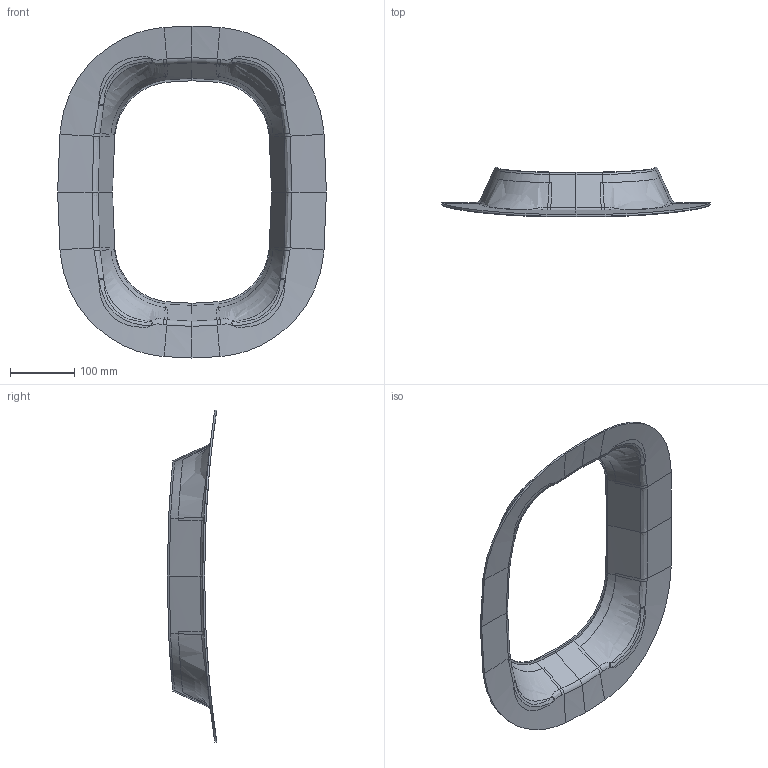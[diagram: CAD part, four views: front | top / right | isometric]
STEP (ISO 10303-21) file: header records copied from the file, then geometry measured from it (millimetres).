
FILE_DESCRIPTION(('Open CASCADE Model'),'2;1');
FILE_NAME('Open CASCADE Shape Model','2026-10-14T16:57:26',('Author'),( 'Open CASCADE'),'Open CASCADE STEP processor 7.8','Open CASCADE 7.8' ,'Unknown');
FILE_SCHEMA(('AUTOMOTIVE_DESIGN { 1 0 10303 214 1 1 1 1 }'));
Products named in the file (1): Open CASCADE STEP translator 7.8 1
Bounding box: 417 x 76.84 x 515 mm (x, y, z)
Volume: 440130.1 mm3; surface area: 300884.7 mm2
Topology: 1 solids, 1 shells, 188 faces, 458 edges, 242 vertices
Faces by surface type: cylinder 68, bspline 64, cone 52, offset 4
Entity records: 60230 total; most frequent: CARTESIAN_POINT 53497, ORIENTED_EDGE 860, PCURVE 860, DEFINITIONAL_REPRESENTATION 860, B_SPLINE_CURVE_WITH_KNOTS 800, DIRECTION 660, EDGE_CURVE 430, SURFACE_CURVE 430
